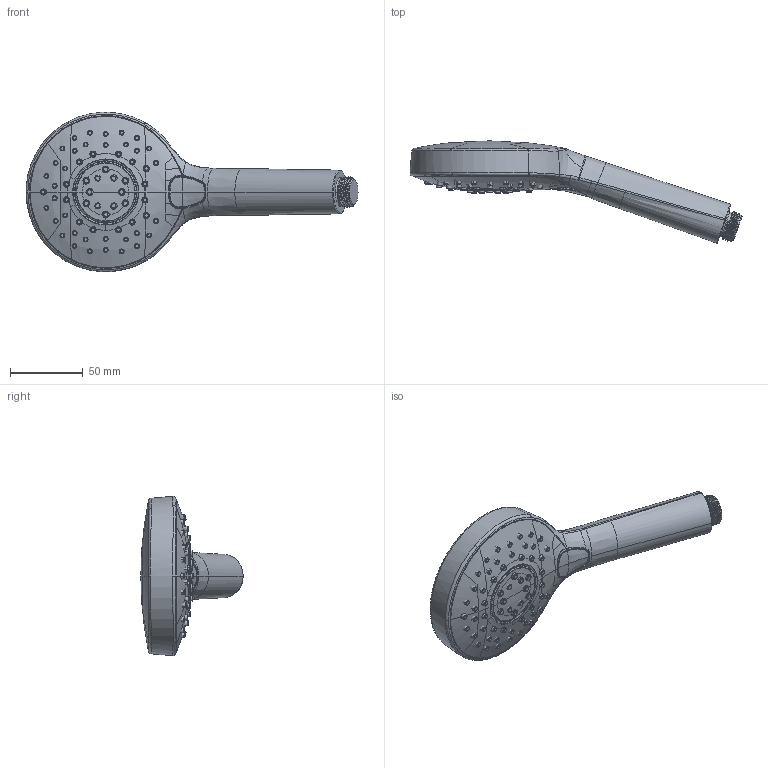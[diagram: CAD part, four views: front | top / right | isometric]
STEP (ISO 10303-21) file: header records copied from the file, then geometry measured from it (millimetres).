
FILE_DESCRIPTION((''),'2;1');
FILE_NAME('766868800_SUB01_SW0001','2026-10-06T10:15:18',('simi1'),(''),'CREO PARAMETRIC BY PTC INC, 2022244','CREO PARAMETRIC BY PTC INC, 2022244','');
FILE_SCHEMA(('CONFIG_CONTROL_DESIGN'));
Products named in the file (1): 766868800_SUB01_SW0001
Bounding box: 228.52 x 70.4 x 109.62 mm (x, y, z)
Surface area: 40719.7 mm2 (no closed solid volume)
Topology: 0 solids, 68 shells, 532 faces, 1635 edges, 1141 vertices
Faces by surface type: bspline 192, cone 132, torus 126, plane 63, cylinder 10, extrusion 7, sphere 2
Entity records: 42081 total; most frequent: CARTESIAN_POINT 29298, ORIENTED_EDGE 2884, DIRECTION 2167, EDGE_CURVE 1635, VERTEX_POINT 1141, AXIS2_PLACEMENT_3D 988, B_SPLINE_CURVE_WITH_KNOTS 803, CIRCLE 655
